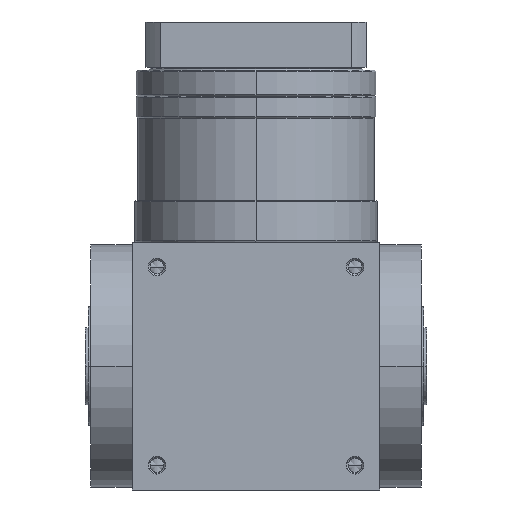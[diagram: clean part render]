
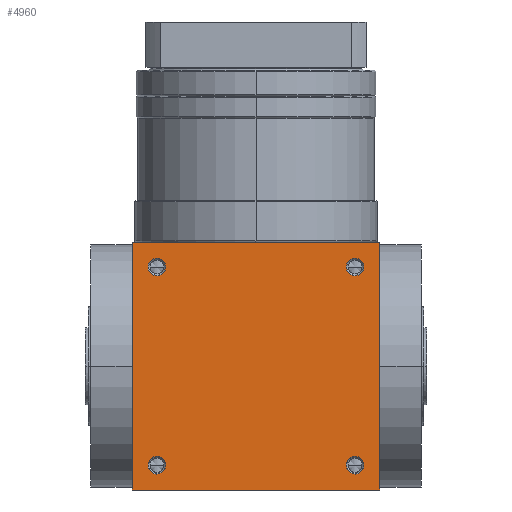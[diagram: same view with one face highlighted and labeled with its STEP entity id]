
A CAD part, front view. The second image highlights one B-rep face of the part: STEP entity #4960.
In plain terms, the highlighted planar face has unit normal (0, -1, 0).
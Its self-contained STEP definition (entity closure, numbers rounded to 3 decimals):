
#915=DIRECTION('',(1.,0.,0.));
#916=VECTOR('',#915,90.);
#917=CARTESIAN_POINT('',(-45.,-45.,-45.));
#918=LINE('',#917,#916);
#1065=DIRECTION('',(0.,0.,1.));
#1066=VECTOR('',#1065,90.);
#1067=CARTESIAN_POINT('',(45.,-45.,-45.));
#1068=LINE('',#1067,#1066);
#1119=DIRECTION('',(0.,0.,1.));
#1120=VECTOR('',#1119,90.);
#1121=CARTESIAN_POINT('',(-45.,-45.,-45.));
#1122=LINE('',#1121,#1120);
#1123=CARTESIAN_POINT('',(36.,-45.,36.));
#1124=DIRECTION('',(0.,1.,0.));
#1125=DIRECTION('',(-1.,0.,0.));
#1126=AXIS2_PLACEMENT_3D('',#1123,#1124,#1125);
#1128=CARTESIAN_POINT('',(36.,-45.,36.));
#1129=DIRECTION('',(0.,1.,0.));
#1130=DIRECTION('',(1.,0.,0.));
#1131=AXIS2_PLACEMENT_3D('',#1128,#1129,#1130);
#1133=CARTESIAN_POINT('',(-36.,-45.,36.));
#1134=DIRECTION('',(0.,1.,0.));
#1135=DIRECTION('',(-1.,0.,0.));
#1136=AXIS2_PLACEMENT_3D('',#1133,#1134,#1135);
#1138=CARTESIAN_POINT('',(-36.,-45.,36.));
#1139=DIRECTION('',(0.,1.,0.));
#1140=DIRECTION('',(1.,0.,0.));
#1141=AXIS2_PLACEMENT_3D('',#1138,#1139,#1140);
#1143=CARTESIAN_POINT('',(36.,-45.,-36.));
#1144=DIRECTION('',(0.,1.,0.));
#1145=DIRECTION('',(-1.,0.,0.));
#1146=AXIS2_PLACEMENT_3D('',#1143,#1144,#1145);
#1148=CARTESIAN_POINT('',(36.,-45.,-36.));
#1149=DIRECTION('',(0.,1.,0.));
#1150=DIRECTION('',(1.,0.,0.));
#1151=AXIS2_PLACEMENT_3D('',#1148,#1149,#1150);
#1153=CARTESIAN_POINT('',(-36.,-45.,-36.));
#1154=DIRECTION('',(0.,1.,0.));
#1155=DIRECTION('',(-1.,0.,0.));
#1156=AXIS2_PLACEMENT_3D('',#1153,#1154,#1155);
#1158=CARTESIAN_POINT('',(-36.,-45.,-36.));
#1159=DIRECTION('',(0.,1.,0.));
#1160=DIRECTION('',(1.,0.,0.));
#1161=AXIS2_PLACEMENT_3D('',#1158,#1159,#1160);
#1175=DIRECTION('',(1.,0.,0.));
#1176=VECTOR('',#1175,90.);
#1177=CARTESIAN_POINT('',(-45.,-45.,45.));
#1178=LINE('',#1177,#1176);
#4154=CARTESIAN_POINT('',(-45.,-45.,-45.));
#4156=VERTEX_POINT('',#4154);
#4157=CARTESIAN_POINT('',(45.,-45.,-45.));
#4158=VERTEX_POINT('',#4157);
#4162=CARTESIAN_POINT('',(-45.,-45.,45.));
#4164=VERTEX_POINT('',#4162);
#4165=CARTESIAN_POINT('',(45.,-45.,45.));
#4166=VERTEX_POINT('',#4165);
#4329=CARTESIAN_POINT('',(32.8,-45.,36.));
#4330=CARTESIAN_POINT('',(39.2,-45.,36.));
#4331=VERTEX_POINT('',#4329);
#4332=VERTEX_POINT('',#4330);
#4337=CARTESIAN_POINT('',(-39.2,-45.,36.));
#4338=CARTESIAN_POINT('',(-32.8,-45.,36.));
#4339=VERTEX_POINT('',#4337);
#4340=VERTEX_POINT('',#4338);
#4345=CARTESIAN_POINT('',(32.8,-45.,-36.));
#4346=CARTESIAN_POINT('',(39.2,-45.,-36.));
#4347=VERTEX_POINT('',#4345);
#4348=VERTEX_POINT('',#4346);
#4353=CARTESIAN_POINT('',(-39.2,-45.,-36.));
#4354=CARTESIAN_POINT('',(-32.8,-45.,-36.));
#4355=VERTEX_POINT('',#4353);
#4356=VERTEX_POINT('',#4354);
#4924=CARTESIAN_POINT('',(-45.,-45.,-45.));
#4925=DIRECTION('',(0.,-1.,0.));
#4926=DIRECTION('',(1.,0.,0.));
#4927=AXIS2_PLACEMENT_3D('',#4924,#4925,#4926);
#4928=PLANE('',#4927);
#4929=ORIENTED_EDGE('',*,*,#4764,.F.);
#4930=ORIENTED_EDGE('',*,*,#4807,.T.);
#4932=ORIENTED_EDGE('',*,*,#4931,.T.);
#4933=ORIENTED_EDGE('',*,*,#4886,.F.);
#4934=EDGE_LOOP('',(#4929,#4930,#4932,#4933));
#4935=FACE_OUTER_BOUND('',#4934,.F.);
#4937=ORIENTED_EDGE('',*,*,#4936,.F.);
#4939=ORIENTED_EDGE('',*,*,#4938,.F.);
#4940=EDGE_LOOP('',(#4937,#4939));
#4941=FACE_BOUND('',#4940,.F.);
#4943=ORIENTED_EDGE('',*,*,#4942,.F.);
#4945=ORIENTED_EDGE('',*,*,#4944,.F.);
#4946=EDGE_LOOP('',(#4943,#4945));
#4947=FACE_BOUND('',#4946,.F.);
#4949=ORIENTED_EDGE('',*,*,#4948,.F.);
#4951=ORIENTED_EDGE('',*,*,#4950,.F.);
#4952=EDGE_LOOP('',(#4949,#4951));
#4953=FACE_BOUND('',#4952,.F.);
#4955=ORIENTED_EDGE('',*,*,#4954,.F.);
#4957=ORIENTED_EDGE('',*,*,#4956,.F.);
#4958=EDGE_LOOP('',(#4955,#4957));
#4959=FACE_BOUND('',#4958,.F.);
#4960=ADVANCED_FACE('',(#4935,#4941,#4947,#4953,#4959),#4928,.T.);
#1127=CIRCLE('',#1126,3.2);
#1132=CIRCLE('',#1131,3.2);
#1137=CIRCLE('',#1136,3.2);
#1142=CIRCLE('',#1141,3.2);
#1147=CIRCLE('',#1146,3.2);
#1152=CIRCLE('',#1151,3.2);
#1157=CIRCLE('',#1156,3.2);
#1162=CIRCLE('',#1161,3.2);
#4764=EDGE_CURVE('',#4156,#4158,#918,.T.);
#4807=EDGE_CURVE('',#4156,#4164,#1122,.T.);
#4886=EDGE_CURVE('',#4158,#4166,#1068,.T.);
#4931=EDGE_CURVE('',#4164,#4166,#1178,.T.);
#4936=EDGE_CURVE('',#4331,#4332,#1127,.T.);
#4938=EDGE_CURVE('',#4332,#4331,#1132,.T.);
#4942=EDGE_CURVE('',#4339,#4340,#1137,.T.);
#4944=EDGE_CURVE('',#4340,#4339,#1142,.T.);
#4948=EDGE_CURVE('',#4347,#4348,#1147,.T.);
#4950=EDGE_CURVE('',#4348,#4347,#1152,.T.);
#4954=EDGE_CURVE('',#4355,#4356,#1157,.T.);
#4956=EDGE_CURVE('',#4356,#4355,#1162,.T.);
